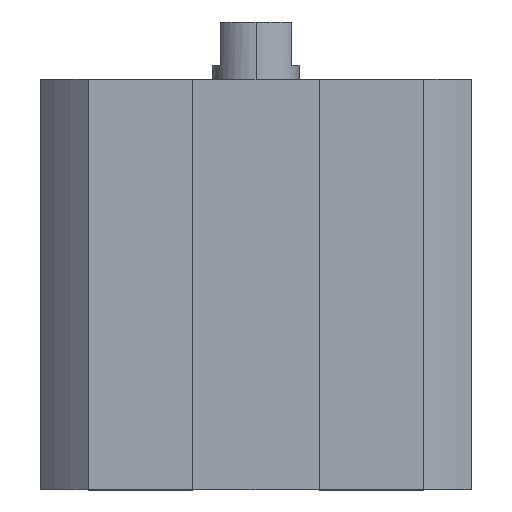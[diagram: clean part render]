
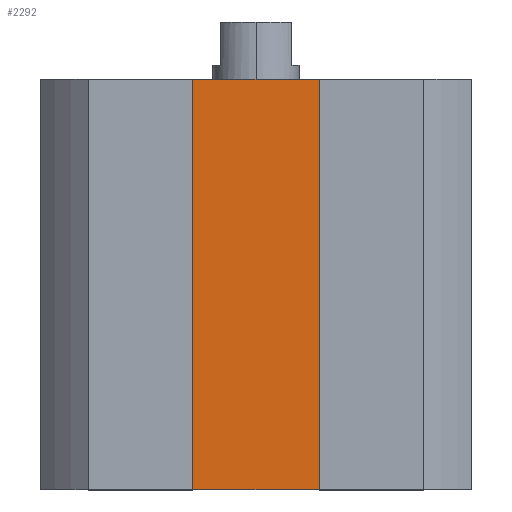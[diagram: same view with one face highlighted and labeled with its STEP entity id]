
A CAD part, top view. The second image highlights one B-rep face of the part: STEP entity #2292.
In plain terms, the highlighted planar face has unit normal (0, 0, 1).
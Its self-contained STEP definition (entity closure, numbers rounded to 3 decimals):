
#56 = LINE ( 'NONE', #718, #1988 ) ;
#137 = CARTESIAN_POINT ( 'NONE',  ( -4.4, 0., 10. ) ) ;
#204 = LINE ( 'NONE', #1332, #566 ) ;
#269 = ORIENTED_EDGE ( 'NONE', *, *, #723, .F. ) ;
#331 = PLANE ( 'NONE',  #748 ) ;
#401 = EDGE_CURVE ( 'NONE', #917, #2189, #56, .T. ) ;
#453 = LINE ( 'NONE', #1571, #1885 ) ;
#480 = DIRECTION ( 'NONE',  ( 0., 1., 0. ) ) ;
#519 = VERTEX_POINT ( 'NONE', #1303 ) ;
#566 = VECTOR ( 'NONE', #610, 1000. ) ;
#568 = EDGE_CURVE ( 'NONE', #519, #619, #1172, .T. ) ;
#610 = DIRECTION ( 'NONE',  ( 0., 1., 0. ) ) ;
#619 = VERTEX_POINT ( 'NONE', #1682 ) ;
#674 = CARTESIAN_POINT ( 'NONE',  ( 0., -28.5, 10. ) ) ;
#717 = VECTOR ( 'NONE', #1817, 1000. ) ;
#718 = CARTESIAN_POINT ( 'NONE',  ( 0., 0., 10. ) ) ;
#723 = EDGE_CURVE ( 'NONE', #519, #917, #204, .T. ) ;
#748 = AXIS2_PLACEMENT_3D ( 'NONE', #674, #869, #1195 ) ;
#869 = DIRECTION ( 'NONE',  ( 0., 0., 1. ) ) ;
#917 = VERTEX_POINT ( 'NONE', #137 ) ;
#1095 = DIRECTION ( 'NONE',  ( 1., 0., 0. ) ) ;
#1150 = EDGE_LOOP ( 'NONE', ( #2087, #269, #1334, #1563 ) ) ;
#1172 = LINE ( 'NONE', #1473, #717 ) ;
#1195 = DIRECTION ( 'NONE',  ( 1., 0., 0. ) ) ;
#1303 = CARTESIAN_POINT ( 'NONE',  ( -4.4, -28.5, 10. ) ) ;
#1332 = CARTESIAN_POINT ( 'NONE',  ( -4.4, -28.5, 10. ) ) ;
#1334 = ORIENTED_EDGE ( 'NONE', *, *, #568, .T. ) ;
#1405 = CARTESIAN_POINT ( 'NONE',  ( 4.4, 0., 10. ) ) ;
#1413 = EDGE_CURVE ( 'NONE', #619, #2189, #453, .T. ) ;
#1473 = CARTESIAN_POINT ( 'NONE',  ( 0., -28.5, 10. ) ) ;
#1563 = ORIENTED_EDGE ( 'NONE', *, *, #1413, .T. ) ;
#1571 = CARTESIAN_POINT ( 'NONE',  ( 4.4, -28.5, 10. ) ) ;
#1682 = CARTESIAN_POINT ( 'NONE',  ( 4.4, -28.5, 10. ) ) ;
#1810 = FACE_OUTER_BOUND ( 'NONE', #1150, .T. ) ;
#1817 = DIRECTION ( 'NONE',  ( 1., 0., 0. ) ) ;
#1885 = VECTOR ( 'NONE', #480, 1000. ) ;
#1988 = VECTOR ( 'NONE', #1095, 1000. ) ;
#2087 = ORIENTED_EDGE ( 'NONE', *, *, #401, .F. ) ;
#2189 = VERTEX_POINT ( 'NONE', #1405 ) ;
#2292 = ADVANCED_FACE ( 'NONE', ( #1810 ), #331, .T. ) ;
